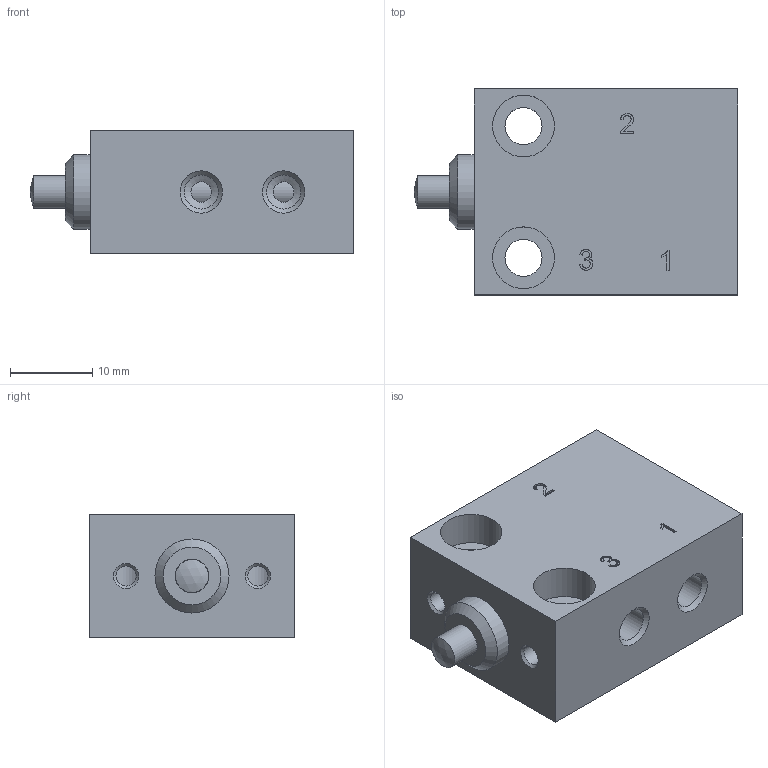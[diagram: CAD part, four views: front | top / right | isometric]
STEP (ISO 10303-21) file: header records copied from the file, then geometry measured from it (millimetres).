
FILE_DESCRIPTION(/* description */ ('Unknown','CAx-IF Rec.Pracs.---Representation and Presentation of Product Manufacturing Information (PMI)---4.0---2014-10-13','CAx-IF Rec.Pracs.---3D Tessellated Geometry---0.4---2014-09-14','2;1'),/* implementation_level */ '2;1');
FILE_NAME(/* name */ 'BV 311 201',/* time_stamp */ '2020-07-03T13:21:57+02:00',/* author */ ('Unknown'),/* organization */ ('Unknown'),/* preprocessor_version */ 'ST-DEVELOPER v16.7',/* originating_system */ 'DEX',/* authorisation */ $);
FILE_SCHEMA (('AP242_MANAGED_MODEL_BASED_3D_ENGINEERING_MIM_LF { 1 0 10303 442 20130219 1 4 }'));
Length unit declared in the file: millimetre
Products named in the file (2): BV 311 201
Assembly tree (1 placements, depth 2):
  BV 311 201
    BV 311 201
Bounding box: 39.25 x 25 x 15 mm (x, y, z)
Volume: 9882.5 mm3; surface area: 6083.7 mm2
Topology: 5 solids, 5 shells, 152 faces, 375 edges, 248 vertices
Faces by surface type: plane 52, bspline 40, cylinder 38, cone 21, sphere 1
Full cylindrical faces by diameter (mm): 1 x1, 2.459 x2, 2.5 x3, 2.8 x1, 3.93 x1, 4 x2, 4.05 x1, 4.134 x6, 4.5 x2, 5 x1, 5.4 x1, 6 x1, 7 x2, 7.5 x4, 8 x1, 8.06 x1, 8.08 x1, 9 x1
Entity records: 5480 total; most frequent: CARTESIAN_POINT 1542, ORIENTED_EDGE 598, DIRECTION 524, EDGE_CURVE 299, EDGE_LOOP 242, FACE_BOUND 242, VERTEX_POINT 225, AXIS2_PLACEMENT_3D 198
